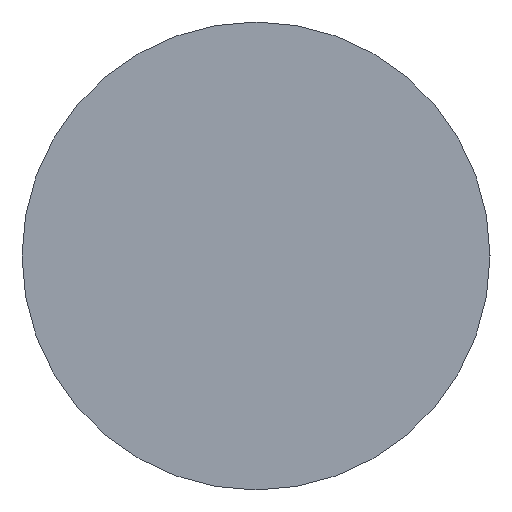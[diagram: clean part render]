
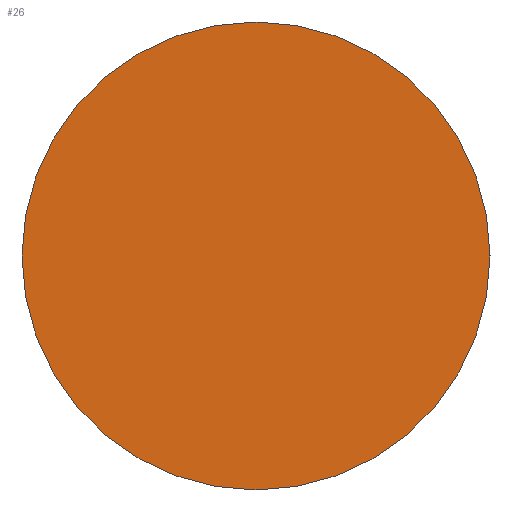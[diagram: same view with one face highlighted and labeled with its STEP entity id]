
A CAD part, left-side view. The second image highlights one B-rep face of the part: STEP entity #26.
In plain terms, the highlighted planar face has unit normal (-1, 0, 0).
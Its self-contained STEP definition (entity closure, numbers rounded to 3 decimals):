
#3 = ORIENTED_EDGE ( 'NONE', *, *, #153, .F. ) ;
#13 = VERTEX_POINT ( 'NONE', #74 ) ;
#21 = CARTESIAN_POINT ( 'NONE',  ( 0., 0., 0. ) ) ;
#24 = ORIENTED_EDGE ( 'NONE', *, *, #122, .F. ) ;
#26 = ADVANCED_FACE ( 'NONE', ( #102 ), #113, .T. ) ;
#38 = DIRECTION ( 'NONE',  ( 0., 1., 0. ) ) ;
#44 = CARTESIAN_POINT ( 'NONE',  ( 0., 0., 0. ) ) ;
#49 = EDGE_LOOP ( 'NONE', ( #3, #24 ) ) ;
#74 = CARTESIAN_POINT ( 'NONE',  ( 0., -5., 0. ) ) ;
#93 = AXIS2_PLACEMENT_3D ( 'NONE', #21, #138, #112 ) ;
#102 = FACE_OUTER_BOUND ( 'NONE', #49, .T. ) ;
#112 = DIRECTION ( 'NONE',  ( 0., -1., 0. ) ) ;
#113 = PLANE ( 'NONE',  #93 ) ;
#116 = CARTESIAN_POINT ( 'NONE',  ( 0., 0., 0. ) ) ;
#122 = EDGE_CURVE ( 'NONE', #13, #180, #129, .T. ) ;
#129 = CIRCLE ( 'NONE', #241, 5. ) ;
#138 = DIRECTION ( 'NONE',  ( -1., 0., 0. ) ) ;
#153 = EDGE_CURVE ( 'NONE', #180, #13, #254, .T. ) ;
#160 = CARTESIAN_POINT ( 'NONE',  ( 0., 5., 0. ) ) ;
#165 = DIRECTION ( 'NONE',  ( 1., 0., 0. ) ) ;
#180 = VERTEX_POINT ( 'NONE', #160 ) ;
#202 = DIRECTION ( 'NONE',  ( 0., 1., 0. ) ) ;
#215 = AXIS2_PLACEMENT_3D ( 'NONE', #116, #165, #38 ) ;
#240 = DIRECTION ( 'NONE',  ( 1., 0., 0. ) ) ;
#241 = AXIS2_PLACEMENT_3D ( 'NONE', #44, #240, #202 ) ;
#254 = CIRCLE ( 'NONE', #215, 5. ) ;
